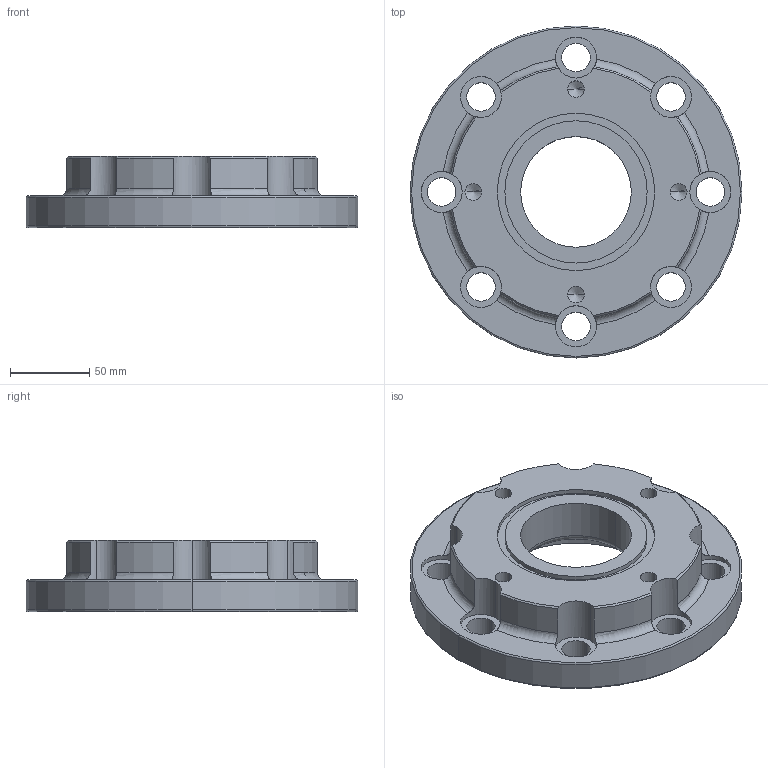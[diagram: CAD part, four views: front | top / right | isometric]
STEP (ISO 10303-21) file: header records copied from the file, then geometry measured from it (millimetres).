
FILE_DESCRIPTION((''),'2;1');
FILE_NAME('853062740_Y06_000','2015-08-07T',('58667'),('Copyright by Leybold GmbH'),'PRO/ENGINEER BY PARAMETRIC TECHNOLOGY CORPORATION, 2013320','PRO/ENGINEER BY PARAMETRIC TECHNOLOGY CORPORATION, 2013320','');
FILE_SCHEMA(('AUTOMOTIVE_DESIGN { 1 0 10303 214 1 1 1 1 }'));
Length unit declared in the file: millimetre
Products named in the file (1): 853062740_Y06_000
Bounding box: 210 x 210 x 45 mm (x, y, z)
Volume: 851701.2 mm3; surface area: 108594.5 mm2
Topology: 1 solids, 1 shells, 102 faces, 274 edges, 174 vertices
Faces by surface type: cylinder 58, cone 16, torus 14, plane 14
Entity records: 3850 total; most frequent: CARTESIAN_POINT 1117, DIRECTION 598, ORIENTED_EDGE 532, EDGE_CURVE 266, AXIS2_PLACEMENT_3D 262, VERTEX_POINT 174, CIRCLE 160, EDGE_LOOP 128
